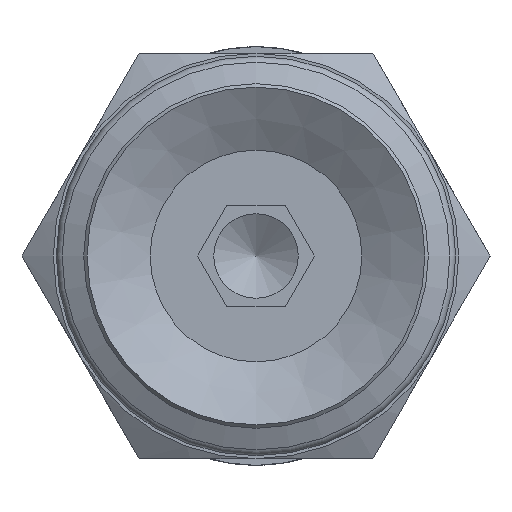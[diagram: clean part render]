
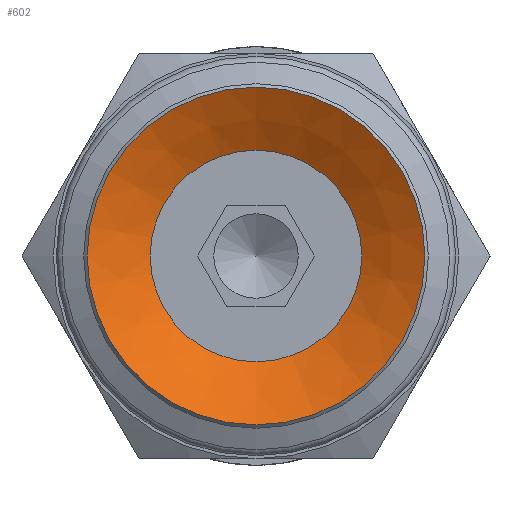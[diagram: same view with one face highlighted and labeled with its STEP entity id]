
A CAD part, front view. The second image highlights one B-rep face of the part: STEP entity #602.
In plain terms, the highlighted conical face has half-angle 60 degrees and reference radius 3.133 mm.
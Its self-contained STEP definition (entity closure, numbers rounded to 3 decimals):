
#602=ADVANCED_FACE('',(#880,#881),#882,.F.);
#880=FACE_BOUND('',#1271,.T.);
#881=FACE_OUTER_BOUND('',#1272,.T.);
#882=CONICAL_SURFACE('',#1273,3.133,1.047);
#1271=EDGE_LOOP('',(#2284));
#1272=EDGE_LOOP('',(#2285));
#1273=AXIS2_PLACEMENT_3D('',#2286,#2287,#2288);
#2284=ORIENTED_EDGE('',*,*,#2867,.F.);
#2285=ORIENTED_EDGE('',*,*,#2868,.T.);
#2286=CARTESIAN_POINT('',(0.0,7.659,0.));
#2287=DIRECTION('',(-0.0,-1.0,0.));
#2288=DIRECTION('',(0.0,0.,-1.0));
#2867=EDGE_CURVE('',#3261,#3261,#3262,.T.);
#2868=EDGE_CURVE('',#3263,#3263,#3264,.T.);
#3261=VERTEX_POINT('',#4301);
#3262=CIRCLE('',#4302,3.133);
#3263=VERTEX_POINT('',#4303);
#3264=CIRCLE('',#4304,5.0);
#4301=CARTESIAN_POINT('',(0.0,7.659,-3.133));
#4302=AXIS2_PLACEMENT_3D('',#5032,#5033,#5034);
#4303=CARTESIAN_POINT('',(0.0,6.581,-5.0));
#4304=AXIS2_PLACEMENT_3D('',#5035,#5036,#5037);
#5032=CARTESIAN_POINT('',(0.0,7.659,0.));
#5033=DIRECTION('',(0.0,-1.0,0.));
#5034=DIRECTION('',(0.0,0.,-1.0));
#5035=CARTESIAN_POINT('',(0.0,6.581,0.0));
#5036=DIRECTION('',(0.0,-1.0,0.));
#5037=DIRECTION('',(0.0,0.,-1.0));
